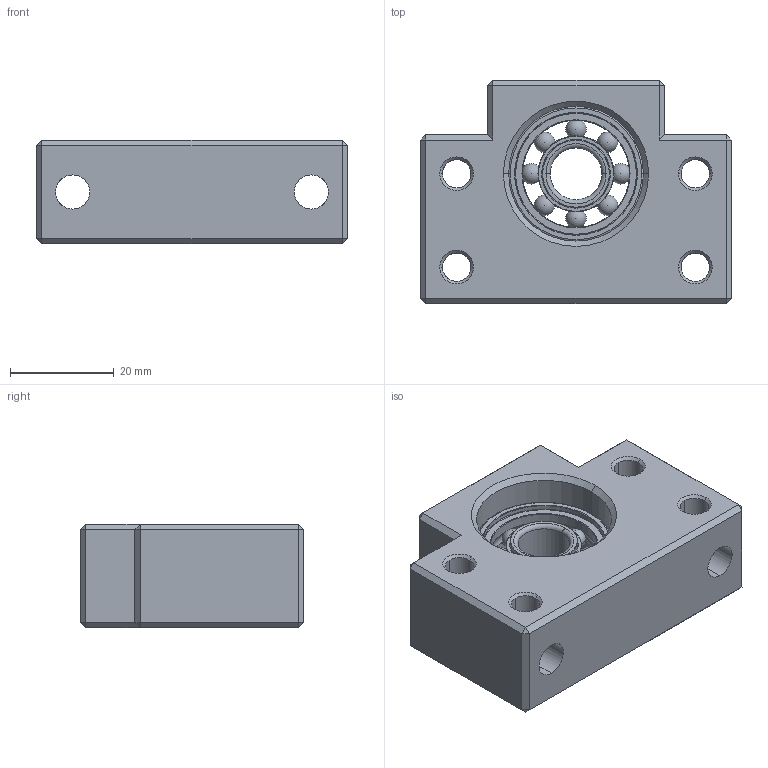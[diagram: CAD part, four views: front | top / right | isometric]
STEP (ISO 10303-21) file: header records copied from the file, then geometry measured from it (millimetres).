
FILE_DESCRIPTION (( 'STEP AP214' ), '1' );
FILE_NAME ('2.4001 Kuularuuvin tukilaakeri BF12.STEP', '2024-05-06T12:27:07', ( '' ), ( '' ), 'SwSTEP 2.0', 'SolidWorks 2024', '' );
FILE_SCHEMA (( 'AUTOMOTIVE_DESIGN' ));
Length unit declared in the file: millimetre
Products named in the file (1): 2.4001 Kuularuuvin tukilaakeri BF12
Bounding box: 60 x 43 x 20 mm (x, y, z)
Volume: 33603.4 mm3; surface area: 13420.5 mm2
Topology: 11 solids, 11 shells, 190 faces, 467 edges, 281 vertices
Faces by surface type: plane 54, torus 50, cylinder 46, cone 24, sphere 16
Entity records: 7621 total; most frequent: CARTESIAN_POINT 2026, DIRECTION 1018, ORIENTED_EDGE 854, AXIS2_PLACEMENT_3D 427, EDGE_CURVE 427, VERTEX_POINT 257, CIRCLE 236, EDGE_LOOP 214
